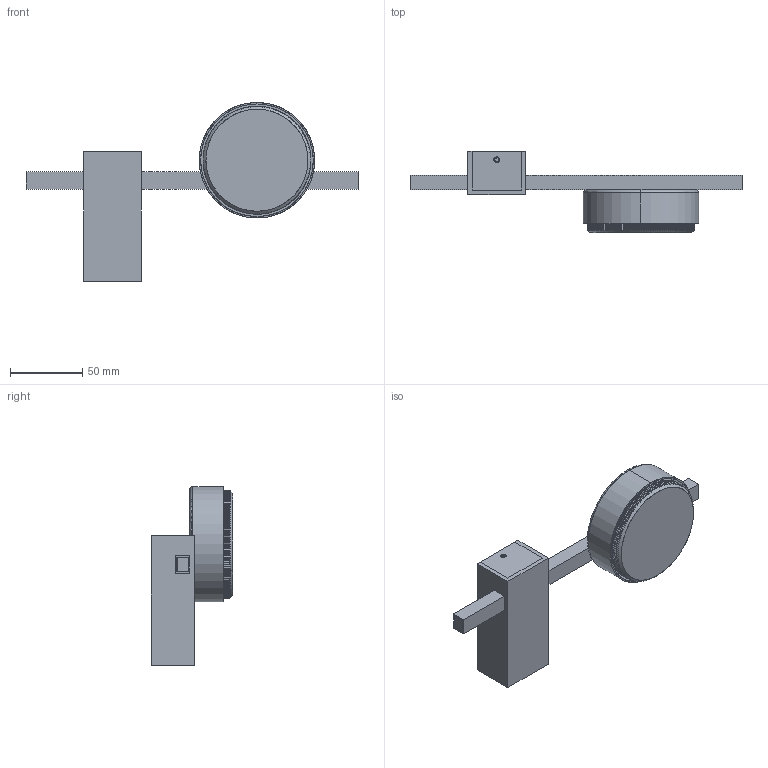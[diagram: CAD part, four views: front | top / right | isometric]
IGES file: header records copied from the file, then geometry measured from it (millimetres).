
Start section: SolidWorks IGES file using analytic representation for surfaces
Global section: file name: Z:\Modele 3D_WWW\_KOLEKCJE_WWW\PILLS\PILLS-I-PLAFON-8266-8272\PILLS-I-PLAFON-8266-8272.IGS; native system: SolidWorks 2021; preprocessor: SolidWorks 2021; author: gabriela.tworek; date: 210528.111336; units: millimetre
Bounding box: 230 x 56.64 x 124 mm (x, y, z)
Surface area: 84162.5 mm2 (no closed solid volume)
Topology: 0 solids, 0 shells, 1387 faces, 10649 edges, 10649 vertices
Faces by surface type: bspline 819, revolution 568
